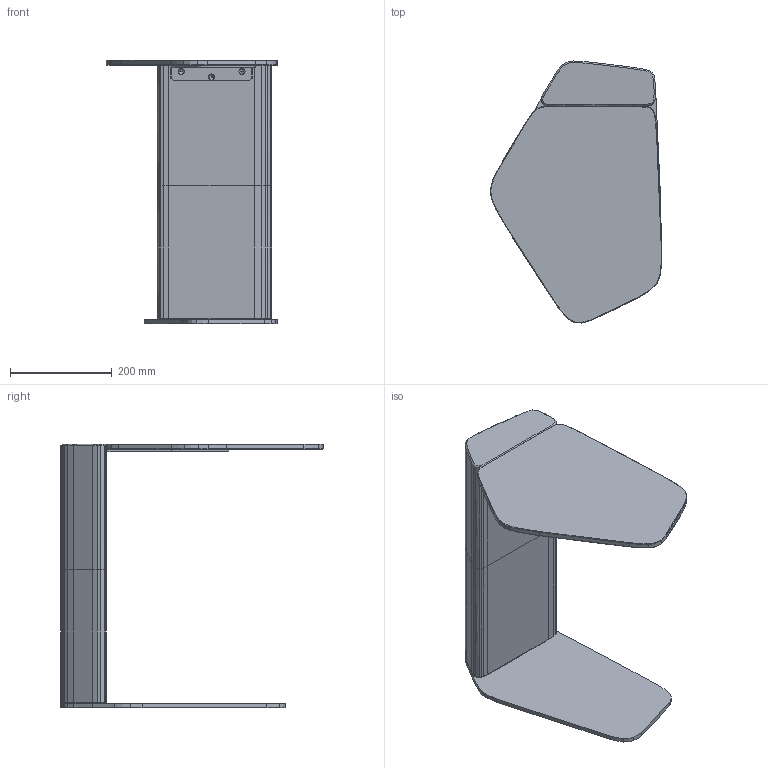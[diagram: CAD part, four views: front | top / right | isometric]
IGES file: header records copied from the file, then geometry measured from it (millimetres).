
Global section: file name: C:\Users\l.marzoli\Desktop\3D_2024\x-web\STONE-side-table\3D_STONE-side-table.igs; native system: Rhinoceros ( Aug 11 2021 ); preprocessor: Trout Lake IGES 012 Aug 11 2021; date: 240429.111329; units: millimetre
Bounding box: 337.88 x 516.22 x 520 mm (x, y, z)
Surface area: 832268.3 mm2 (no closed solid volume)
Topology: 0 solids, 0 shells, 281 faces, 1445 edges, 1445 vertices
Faces by surface type: bspline 281
